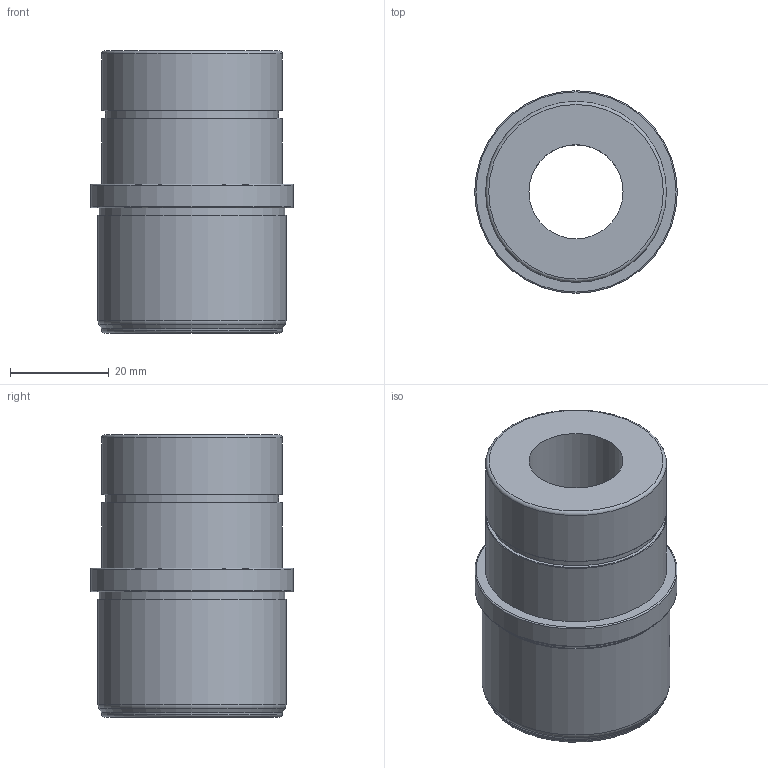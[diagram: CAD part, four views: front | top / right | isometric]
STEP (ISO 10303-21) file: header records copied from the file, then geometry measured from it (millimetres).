
FILE_DESCRIPTION (( 'STEP AP214' ), '1' );
FILE_NAME ('GK0.75-P1.25-Base.stp', '2024-03-21T15:28:31', ( '' ), ( '' ), 'SwSTEP 2.0', 'SolidWorks 2020', '' );
FILE_SCHEMA (( 'AUTOMOTIVE_DESIGN' ));
Length unit declared in the file: inch
Products named in the file (1): GK0.75-P1.25-Base
Bounding box: 41.02 x 41.02 x 57.15 mm (x, y, z)
Volume: 34133.4 mm3; surface area: 13249.3 mm2
Topology: 1 solids, 1 shells, 27 faces, 48 edges, 29 vertices
Faces by surface type: torus 10, plane 8, cylinder 8, cone 1
Full cylindrical faces by diameter (mm): 19.05 x1, 31.75 x1, 35.027 x1, 36.601 x2, 37.577 x1, 38.085 x1, 41.021 x1
Entity records: 588 total; most frequent: DIRECTION 110, CARTESIAN_POINT 82, AXIS2_PLACEMENT_3D 55, ORIENTED_EDGE 54, EDGE_LOOP 54, FACE_OUTER_BOUND 45, CIRCLE 27, VERTEX_POINT 27
